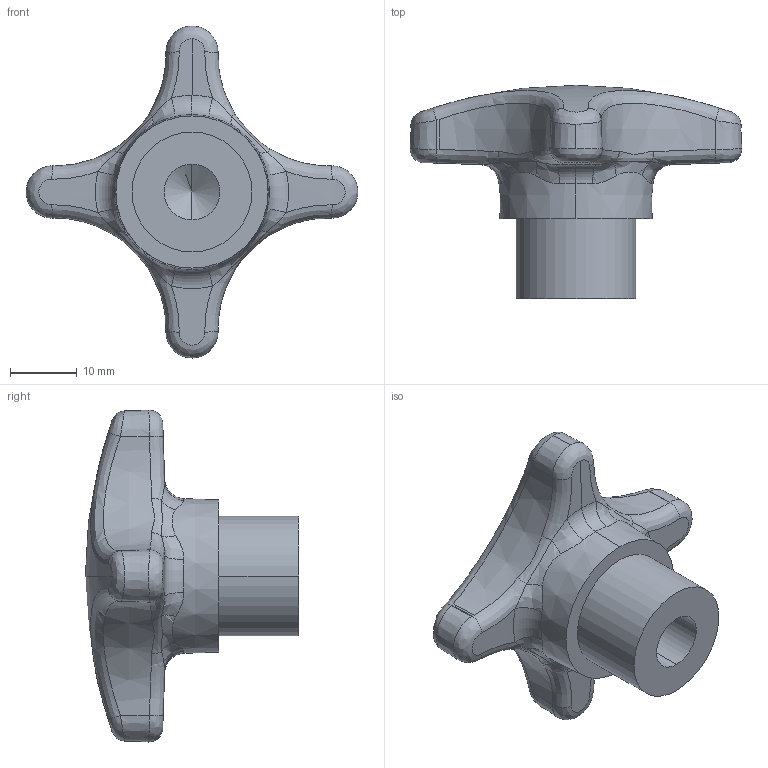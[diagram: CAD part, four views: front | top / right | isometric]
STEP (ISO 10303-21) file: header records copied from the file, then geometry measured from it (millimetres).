
FILE_DESCRIPTION (( 'STEP AP214' ), '1' );
FILE_NAME ('6335.2-50-M10-E-NI.step', '2022-11-14T08:41:29', ( '' ), ( '' ), 'SwSTEP 2.0', 'SolidWorks 2022', '' );
FILE_SCHEMA (( 'AUTOMOTIVE_DESIGN' ));
Length unit declared in the file: millimetre
Products named in the file (1): 6335.2-50-M10-E-NI
Bounding box: 49.82 x 32 x 49.83 mm (x, y, z)
Volume: 14664.7 mm3; surface area: 4839.3 mm2
Topology: 1 solids, 1 shells, 74 faces, 178 edges, 106 vertices
Faces by surface type: bspline 36, cone 25, torus 5, cylinder 4, sphere 2, plane 2
Entity records: 5146 total; most frequent: CARTESIAN_POINT 3587, ORIENTED_EDGE 352, DIRECTION 231, EDGE_CURVE 176, VERTEX_POINT 106, AXIS2_PLACEMENT_3D 103, B_SPLINE_CURVE_WITH_KNOTS 87, EDGE_LOOP 76
